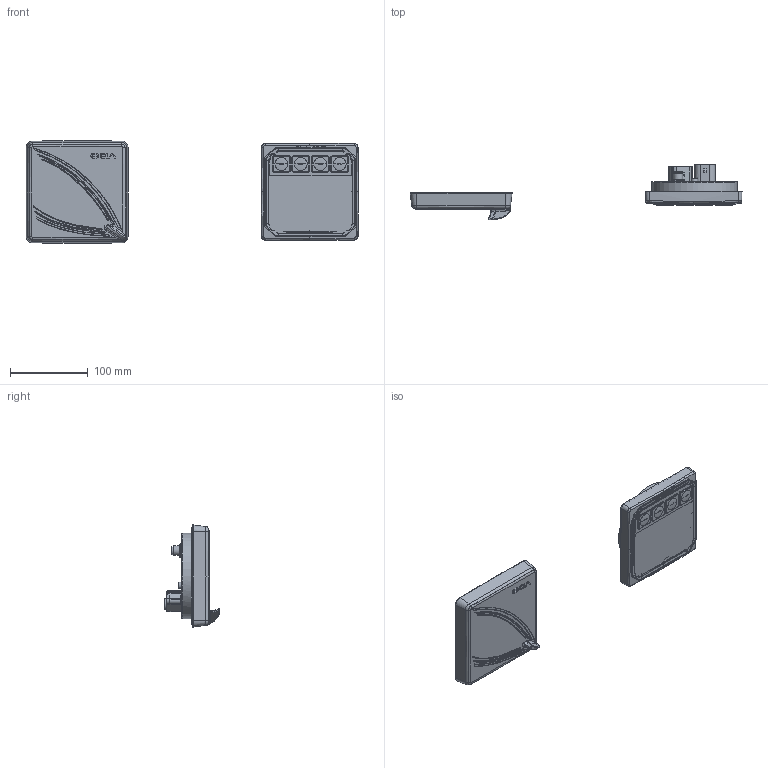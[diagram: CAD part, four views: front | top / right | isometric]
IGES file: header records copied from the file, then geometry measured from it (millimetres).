
Global section: file name: DISPLAY VERATRON VDO dmu_ol4_3_tft_asm; native system: Autodesk Inventor 2020; preprocessor: unknown; author: uid148; date: 20210217.074931; units: millimetre
Bounding box: 426.82 x 71.76 x 131.48 mm (x, y, z)
Volume: 442793.5 mm3; surface area: 144921.5 mm2
Topology: 3 solids, 3 shells, 10631 faces, 24954 edges, 14657 vertices
Faces by surface type: bspline 10631
